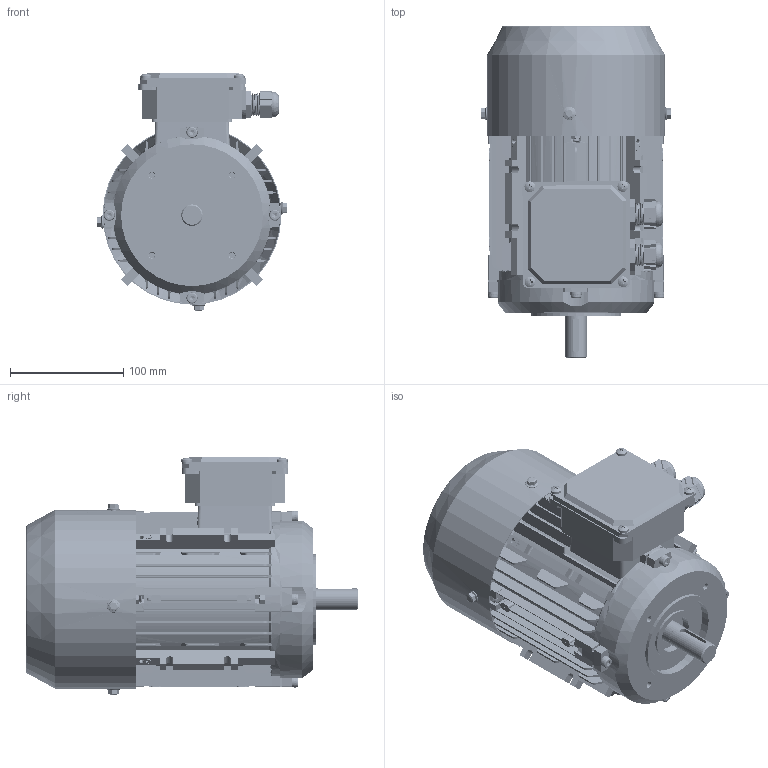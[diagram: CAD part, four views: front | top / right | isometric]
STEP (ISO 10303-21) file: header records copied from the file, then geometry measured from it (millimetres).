
FILE_DESCRIPTION (( 'STEP AP203' ), '1' );
FILE_NAME ('ME3-80B14 3Dͼ.STEP', '2024-05-18T06:53:12', ( 'User' ), ( 'China' ), 'SwSTEP 2.0', 'SolidWorks 2018', '' );
FILE_SCHEMA (( 'CONFIG_CONTROL_DESIGN' ));
Length unit declared in the file: millimetre
Products named in the file (16): hex lobular socket head cap screws-4.8 gb_GB_HEXAGON_TYPE21 M6X30-30-C; 蹟簸M20X1.5; ME2 80B14瑞盖; cross recessed pan head screws gb_GB_CROSS_SCREWS_TYPE1 M5X8-8  H type-C; ME3-80B14 3Dͼ; MS63-71諉盄碟裔; hex nuts, style 2-grades ab gb_GB_HEXAGON_TYPE13 M5 Normal Style-C; ME3 80儂褲; hex lobular socket head cap screws-4.8 gb_GB_HEXAGON_TYPE21 M6X30-30-S; ME2  B3后瑞盖; ME2  80瑞欶; ME2  80蛌粣; hex flange bolts-heavy grade b gb_GB_FASTENER_BOLT_HFBB M5X10-C; MS63-71諉盄碟菁釱; wave single coil spring lock washers gb_GB_FASTENER_WASHER_WSLW 6; 蹟杶郋M20X1.5
Assembly tree (42 placements, depth 2):
  ME3-80B14 3Dͼ
    ME3 80儂褲
    ME2  B3后瑞盖
    ME2  80蛌粣
    MS63-71諉盄碟菁釱
    蹟杶郋M20X1.5  x2
    蹟簸M20X1.5  x2
    cross recessed pan head screws gb_GB_CROSS_SCREWS_TYPE1 M5X8-8  H type-C  x8
    MS63-71諉盄碟裔
    hex nuts, style 2-grades ab gb_GB_HEXAGON_TYPE13 M5 Normal Style-C  x7
    hex lobular socket head cap screws-4.8 gb_GB_HEXAGON_TYPE21 M6X30-30-S  x4
    ME2  80瑞欶
    hex flange bolts-heavy grade b gb_GB_FASTENER_BOLT_HFBB M5X10-C  x4
    wave single coil spring lock washers gb_GB_FASTENER_WASHER_WSLW 6  x4
    hex lobular socket head cap screws-4.8 gb_GB_HEXAGON_TYPE21 M6X30-30-C  x4
    ME2 80B14瑞盖
Bounding box: 168.19 x 292.56 x 209.09 mm (x, y, z)
Volume: 901895.1 mm3; surface area: 593927.8 mm2
Topology: 42 solids, 44 shells, 5798 faces, 15248 edges, 9655 vertices
Faces by surface type: plane 3036, cylinder 1209, cone 1101, bspline 222, torus 214, sphere 16
Entity records: 124981 total; most frequent: CARTESIAN_POINT 34656, ORIENTED_EDGE 19406, DIRECTION 16925, EDGE_CURVE 9703, VERTEX_POINT 6307, AXIS2_PLACEMENT_3D 5651, VECTOR 5623, LINE 5623
